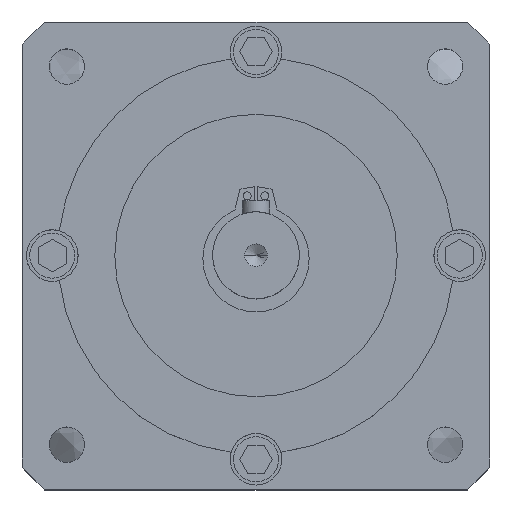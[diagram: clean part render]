
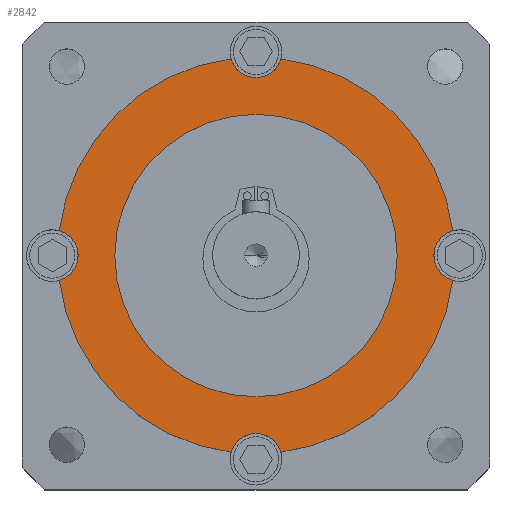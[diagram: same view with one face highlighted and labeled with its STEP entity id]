
A CAD part, top view. The second image highlights one B-rep face of the part: STEP entity #2842.
In plain terms, the highlighted planar face has unit normal (0, 0, 1).
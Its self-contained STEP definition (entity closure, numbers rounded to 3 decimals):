
#47 = CARTESIAN_POINT ( 'NONE',  ( 32.75, 0., 91.2 ) ) ;
#53 = CARTESIAN_POINT ( 'NONE',  ( 36.213, -4.572, 91.2 ) ) ;
#244 = CARTESIAN_POINT ( 'NONE',  ( 0., 0., 91.2 ) ) ;
#256 = ORIENTED_EDGE ( 'NONE', *, *, #7323, .T. ) ;
#321 = VERTEX_POINT ( 'NONE', #4149 ) ;
#325 = DIRECTION ( 'NONE',  ( 1., 0., 0. ) ) ;
#462 = CIRCLE ( 'NONE', #5244, 36.5 ) ;
#561 = CARTESIAN_POINT ( 'NONE',  ( -36.212, 4.572, 91.2 ) ) ;
#609 = CARTESIAN_POINT ( 'NONE',  ( 0., 0., 91.2 ) ) ;
#709 = EDGE_CURVE ( 'NONE', #2256, #5077, #1681, .T. ) ;
#716 = ORIENTED_EDGE ( 'NONE', *, *, #4004, .F. ) ;
#740 = CARTESIAN_POINT ( 'NONE',  ( 36.212, 4.572, 91.2 ) ) ;
#776 = VERTEX_POINT ( 'NONE', #5291 ) ;
#788 = DIRECTION ( 'NONE',  ( 0., 0., 1. ) ) ;
#791 = DIRECTION ( 'NONE',  ( 1., 0., 0. ) ) ;
#950 = DIRECTION ( 'NONE',  ( 1., 0., 0. ) ) ;
#1013 = VERTEX_POINT ( 'NONE', #6938 ) ;
#1101 = CIRCLE ( 'NONE', #3059, 4.75 ) ;
#1220 = PLANE ( 'NONE',  #2257 ) ;
#1387 = ORIENTED_EDGE ( 'NONE', *, *, #4977, .F. ) ;
#1409 = AXIS2_PLACEMENT_3D ( 'NONE', #6143, #7398, #4354 ) ;
#1529 = ORIENTED_EDGE ( 'NONE', *, *, #6866, .T. ) ;
#1648 = CARTESIAN_POINT ( 'NONE',  ( -4.572, 36.212, 91.2 ) ) ;
#1681 = CIRCLE ( 'NONE', #7229, 4.75 ) ;
#1744 = AXIS2_PLACEMENT_3D ( 'NONE', #5754, #5675, #791 ) ;
#1784 = CIRCLE ( 'NONE', #5516, 36.5 ) ;
#1893 = CARTESIAN_POINT ( 'NONE',  ( 37.5, 0., 91.2 ) ) ;
#2015 = EDGE_CURVE ( 'NONE', #2626, #3163, #6621, .T. ) ;
#2115 = DIRECTION ( 'NONE',  ( 1., 0., 0. ) ) ;
#2192 = DIRECTION ( 'NONE',  ( 0., 0., 1. ) ) ;
#2231 = DIRECTION ( 'NONE',  ( 0., 0., 1. ) ) ;
#2256 = VERTEX_POINT ( 'NONE', #1648 ) ;
#2257 = AXIS2_PLACEMENT_3D ( 'NONE', #4797, #4231, #6631 ) ;
#2460 = ORIENTED_EDGE ( 'NONE', *, *, #709, .F. ) ;
#2539 = CARTESIAN_POINT ( 'NONE',  ( 0., -37.5, 91.2 ) ) ;
#2585 = VERTEX_POINT ( 'NONE', #740 ) ;
#2626 = VERTEX_POINT ( 'NONE', #3190 ) ;
#2684 = CARTESIAN_POINT ( 'NONE',  ( -26., 0., 91.2 ) ) ;
#2706 = ORIENTED_EDGE ( 'NONE', *, *, #4135, .F. ) ;
#2730 = DIRECTION ( 'NONE',  ( 1., 0., 0. ) ) ;
#2731 = DIRECTION ( 'NONE',  ( 0., 0., 1. ) ) ;
#2838 = CARTESIAN_POINT ( 'NONE',  ( -37.5, 0., 91.2 ) ) ;
#2842 = ADVANCED_FACE ( 'NONE', ( #5537, #4187 ), #1220, .T. ) ;
#2846 = DIRECTION ( 'NONE',  ( 0., 0., 1. ) ) ;
#2930 = CIRCLE ( 'NONE', #7421, 36.5 ) ;
#2931 = AXIS2_PLACEMENT_3D ( 'NONE', #244, #2731, #2115 ) ;
#3059 = AXIS2_PLACEMENT_3D ( 'NONE', #1893, #6806, #4375 ) ;
#3092 = DIRECTION ( 'NONE',  ( 0., 0., 1. ) ) ;
#3163 = VERTEX_POINT ( 'NONE', #561 ) ;
#3187 = CIRCLE ( 'NONE', #1744, 26. ) ;
#3190 = CARTESIAN_POINT ( 'NONE',  ( -32.75, 0., 91.2 ) ) ;
#3575 = AXIS2_PLACEMENT_3D ( 'NONE', #2838, #2192, #7094 ) ;
#3806 = AXIS2_PLACEMENT_3D ( 'NONE', #4016, #7590, #7624 ) ;
#3843 = AXIS2_PLACEMENT_3D ( 'NONE', #2539, #2846, #325 ) ;
#3998 = AXIS2_PLACEMENT_3D ( 'NONE', #6270, #788, #4003 ) ;
#4001 = VERTEX_POINT ( 'NONE', #53 ) ;
#4003 = DIRECTION ( 'NONE',  ( 1., 0., 0. ) ) ;
#4004 = EDGE_CURVE ( 'NONE', #321, #1013, #5619, .T. ) ;
#4016 = CARTESIAN_POINT ( 'NONE',  ( -37.5, 0., 91.2 ) ) ;
#4135 = EDGE_CURVE ( 'NONE', #776, #4325, #4482, .T. ) ;
#4149 = CARTESIAN_POINT ( 'NONE',  ( 4.572, -36.212, 91.2 ) ) ;
#4186 = EDGE_CURVE ( 'NONE', #2585, #5077, #462, .T. ) ;
#4187 = FACE_BOUND ( 'NONE', #5432, .T. ) ;
#4231 = DIRECTION ( 'NONE',  ( 0., 0., 1. ) ) ;
#4325 = VERTEX_POINT ( 'NONE', #2684 ) ;
#4354 = DIRECTION ( 'NONE',  ( 1., 0., 0. ) ) ;
#4375 = DIRECTION ( 'NONE',  ( 1., 0., 0. ) ) ;
#4482 = CIRCLE ( 'NONE', #2931, 26. ) ;
#4706 = EDGE_LOOP ( 'NONE', ( #6160, #5938, #2460, #5925, #5841, #1387, #1529, #716, #256, #7038 ) ) ;
#4782 = CARTESIAN_POINT ( 'NONE',  ( 4.572, 36.212, 91.2 ) ) ;
#4797 = CARTESIAN_POINT ( 'NONE',  ( 0., 0., 91.2 ) ) ;
#4977 = EDGE_CURVE ( 'NONE', #5086, #2626, #5618, .T. ) ;
#5077 = VERTEX_POINT ( 'NONE', #4782 ) ;
#5086 = VERTEX_POINT ( 'NONE', #7703 ) ;
#5141 = EDGE_CURVE ( 'NONE', #2256, #3163, #2930, .T. ) ;
#5207 = EDGE_CURVE ( 'NONE', #2585, #5542, #1101, .T. ) ;
#5244 = AXIS2_PLACEMENT_3D ( 'NONE', #609, #3092, #6127 ) ;
#5269 = EDGE_CURVE ( 'NONE', #4325, #776, #3187, .T. ) ;
#5291 = CARTESIAN_POINT ( 'NONE',  ( 26., 0., 91.2 ) ) ;
#5432 = EDGE_LOOP ( 'NONE', ( #7295, #2706 ) ) ;
#5483 = DIRECTION ( 'NONE',  ( 1., 0., 0. ) ) ;
#5516 = AXIS2_PLACEMENT_3D ( 'NONE', #7090, #7616, #950 ) ;
#5537 = FACE_OUTER_BOUND ( 'NONE', #4706, .T. ) ;
#5542 = VERTEX_POINT ( 'NONE', #47 ) ;
#5618 = CIRCLE ( 'NONE', #3575, 4.75 ) ;
#5619 = CIRCLE ( 'NONE', #3843, 4.75 ) ;
#5675 = DIRECTION ( 'NONE',  ( 0., 0., 1. ) ) ;
#5754 = CARTESIAN_POINT ( 'NONE',  ( 0., 0., 91.2 ) ) ;
#5841 = ORIENTED_EDGE ( 'NONE', *, *, #2015, .F. ) ;
#5925 = ORIENTED_EDGE ( 'NONE', *, *, #5141, .T. ) ;
#5938 = ORIENTED_EDGE ( 'NONE', *, *, #4186, .T. ) ;
#6079 = CARTESIAN_POINT ( 'NONE',  ( 0., 0., 91.2 ) ) ;
#6127 = DIRECTION ( 'NONE',  ( 1., 0., 0. ) ) ;
#6143 = CARTESIAN_POINT ( 'NONE',  ( 37.5, 0., 91.2 ) ) ;
#6160 = ORIENTED_EDGE ( 'NONE', *, *, #5207, .F. ) ;
#6270 = CARTESIAN_POINT ( 'NONE',  ( 0., 0., 91.2 ) ) ;
#6412 = CIRCLE ( 'NONE', #3998, 36.5 ) ;
#6621 = CIRCLE ( 'NONE', #3806, 4.75 ) ;
#6631 = DIRECTION ( 'NONE',  ( 1., 0., 0. ) ) ;
#6806 = DIRECTION ( 'NONE',  ( 0., 0., 1. ) ) ;
#6866 = EDGE_CURVE ( 'NONE', #5086, #1013, #1784, .T. ) ;
#6938 = CARTESIAN_POINT ( 'NONE',  ( -4.572, -36.212, 91.2 ) ) ;
#7038 = ORIENTED_EDGE ( 'NONE', *, *, #7865, .F. ) ;
#7077 = CIRCLE ( 'NONE', #1409, 4.75 ) ;
#7090 = CARTESIAN_POINT ( 'NONE',  ( 0., 0., 91.2 ) ) ;
#7094 = DIRECTION ( 'NONE',  ( 1., 0., 0. ) ) ;
#7229 = AXIS2_PLACEMENT_3D ( 'NONE', #7593, #2231, #2730 ) ;
#7295 = ORIENTED_EDGE ( 'NONE', *, *, #5269, .F. ) ;
#7305 = DIRECTION ( 'NONE',  ( 0., 0., 1. ) ) ;
#7323 = EDGE_CURVE ( 'NONE', #321, #4001, #6412, .T. ) ;
#7398 = DIRECTION ( 'NONE',  ( 0., 0., 1. ) ) ;
#7421 = AXIS2_PLACEMENT_3D ( 'NONE', #6079, #7305, #5483 ) ;
#7590 = DIRECTION ( 'NONE',  ( 0., 0., 1. ) ) ;
#7593 = CARTESIAN_POINT ( 'NONE',  ( 0., 37.5, 91.2 ) ) ;
#7616 = DIRECTION ( 'NONE',  ( 0., 0., 1. ) ) ;
#7624 = DIRECTION ( 'NONE',  ( 1., 0., 0. ) ) ;
#7703 = CARTESIAN_POINT ( 'NONE',  ( -36.212, -4.572, 91.2 ) ) ;
#7865 = EDGE_CURVE ( 'NONE', #5542, #4001, #7077, .T. ) ;
